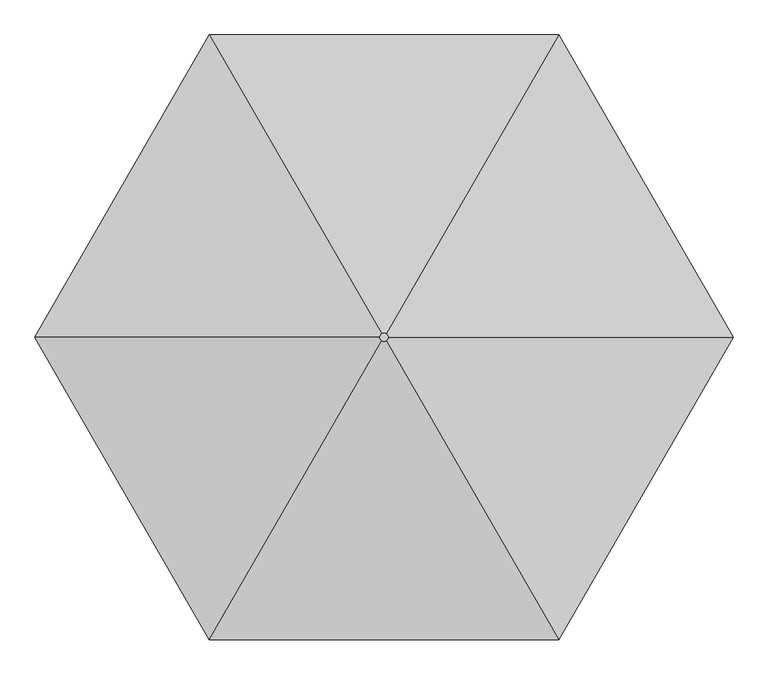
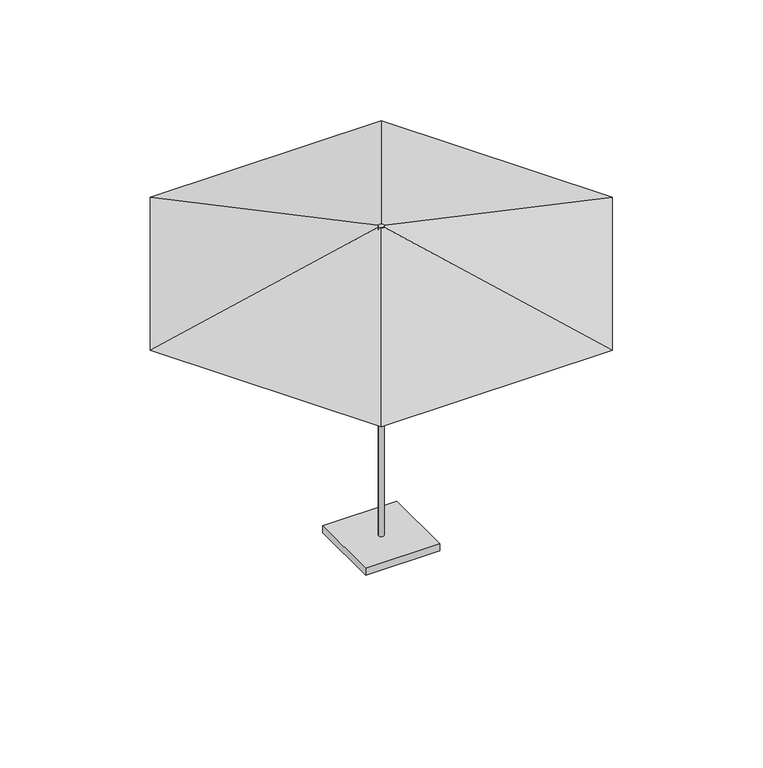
"""IFC4 building model written with IfcOpenShell, lengths in millimetres: furniture geometry, Mobile Ausstattung Sonnenschutz : Sonnenschutz."""

from ifc_helpers import new_model, si_unit, point, frame, origin, origin_with_axes, origin_2d, place, context, project, spatial, polyline, circle_curve, trimmed, segment, composite_curve, outline, extrude, faceted_brep, source, transform, mapped, element, save


def furniture_e3935824(model_context):
    return source(origin(), model_context, "Body", "SolidModel", [
        extrude(outline(composite_curve([segment(trimmed(circle_curve(origin_2d(), 15.0), [point((-15.0, 0.0))], [point((15.0, 0.0))], False, "CARTESIAN"), True, "CONTINUOUS"), segment(trimmed(circle_curve(origin_2d(), 15.0), [point((15.0, 0.0))], [point((-15.0, 0.0))], False, "CARTESIAN"), True, "CONTINUOUS")], self_intersect=False)), frame((0.0, 0.0, 40.0), z_axis=(0.0, 0.0, 1.0), x_axis=(1.0, 0.0, 0.0)), (0.0, 0.0, 1.0), 1760.0),
        faceted_brep([(7.5, -12.9903811, 1800.0), (15.0, 0.0, 1800.0), (7.5, 12.9903811, 1800.0), (-7.5, 12.9903811, 1800.0), (-15.0, 0.0, 1800.0), (-7.5, -12.9903811, 1800.0), (622.3835902, -1078.0, 1528.1307688), (-622.3835902, -1078.0, 1528.1307688), (-1244.7671804, 0.0, 1528.1307688), (-622.3835902, 1078.0, 1528.1307688), (622.3835902, 1078.0, 1528.1307688), (1244.7671804, 0.0, 1528.1307688)], [[[0, 1, 2, 3, 4, 5]], [[6, 7, 8, 9, 10, 11]], [[6, 0, 5, 7]], [[7, 5, 4, 8]], [[8, 4, 3, 9]], [[9, 3, 2, 10]], [[10, 2, 1, 11]], [[11, 1, 0, 6]]]),
        extrude(outline(polyline([(200.0, -200.0), (-200.0, -200.0), (-200.0, 200.0), (200.0, 200.0), (200.0, -200.0)])), origin_with_axes(), (0.0, 0.0, 1.0), 40.0),
    ])


if __name__ == "__main__":
    model = new_model("IFC4")
    model_context = context("Model", 3, world=origin())
    ifc_project = project(units=[si_unit("LENGTHUNIT", "METRE", prefix="MILLI")], contexts=[model_context])
    site = spatial("IfcSite", under=ifc_project)
    building = spatial("IfcBuilding", under=site)
    placement = place(None, origin())
    furniture_shape = furniture_e3935824(model_context)
    element("IfcFurniture", 1, ObjectType="Mobile Ausstattung Sonnenschutz : Sonnenschutz", at=placement, inside=building, context=model_context, shape_type="MappedRepresentation", body=[
        mapped(furniture_shape, transform((0.0, 0.0, 0.0), x_axis=(1.0, 0.0, 0.0), y_axis=(0.0, 1.0, 0.0), z_axis=(0.0, 0.0, 1.0))),
    ])
    save(model, "model.ifc")
